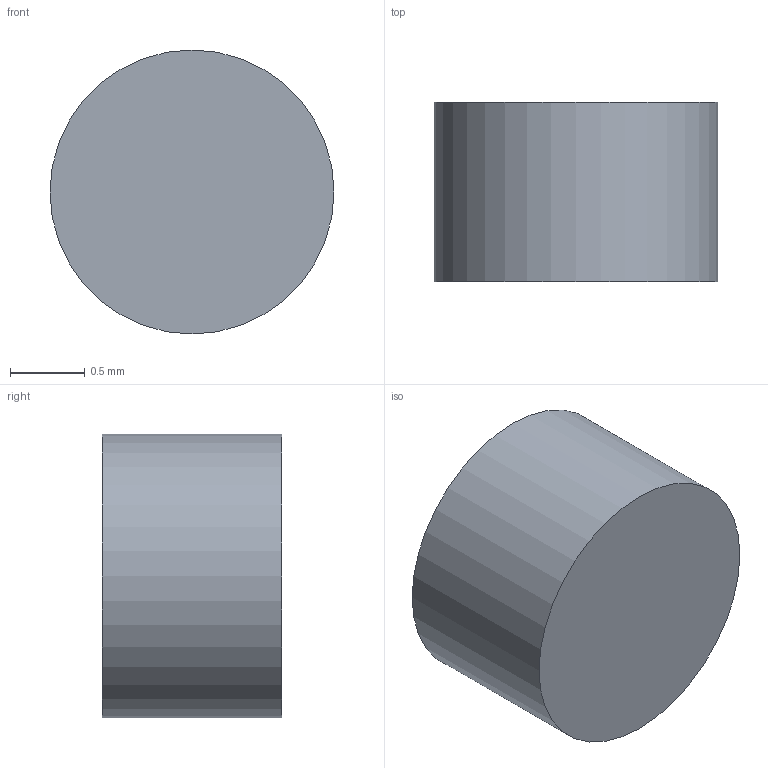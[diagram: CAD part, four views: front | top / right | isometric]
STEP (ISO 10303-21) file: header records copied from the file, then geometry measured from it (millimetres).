
FILE_DESCRIPTION(('Open CASCADE Model'),'2;1');
FILE_NAME('Open CASCADE Shape Model','2026-09-30T21:50:23',('Author'),( 'Open CASCADE'),'Open CASCADE STEP processor 7.9','Open CASCADE 7.9' ,'Unknown');
FILE_SCHEMA(('AUTOMOTIVE_DESIGN { 1 0 10303 214 1 1 1 1 }'));
Length unit declared in the file: millimetre
Products named in the file (1): Open CASCADE STEP translator 7.9 10
Bounding box: 1.9 x 1.2 x 1.9 mm (x, y, z)
Volume: 3.4 mm3; surface area: 12.8 mm2
Topology: 1 solids, 1 shells, 3 faces, 3 edges, 2 vertices
Faces by surface type: plane 2, cylinder 1
Full cylindrical faces by diameter (mm): 1.9 x1
Entity records: 108 total; most frequent: DIRECTION 19, CARTESIAN_POINT 15, AXIS2_PLACEMENT_3D 6, ORIENTED_EDGE 6, PCURVE 6, DEFINITIONAL_REPRESENTATION 6, LINE 5, VECTOR 5
